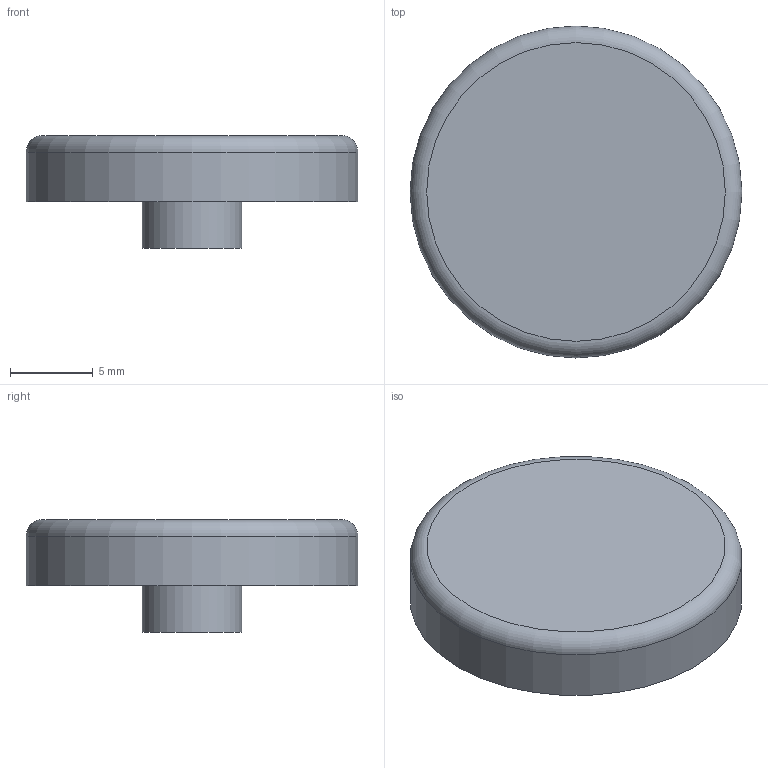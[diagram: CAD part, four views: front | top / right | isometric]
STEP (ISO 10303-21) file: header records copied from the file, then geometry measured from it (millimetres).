
FILE_DESCRIPTION(('Open CASCADE Model'),'2;1');
FILE_NAME('Open CASCADE Shape Model','2026-10-20T14:29:41',('Author'),( 'Open CASCADE'),'Open CASCADE STEP processor 7.8','Open CASCADE 7.8' ,'Unknown');
FILE_SCHEMA(('AUTOMOTIVE_DESIGN { 1 0 10303 214 1 1 1 1 }'));
Length unit declared in the file: millimetre
Products named in the file (1): Open CASCADE STEP translator 7.8 1
Bounding box: 20 x 20 x 6.8 mm (x, y, z)
Volume: 1305.8 mm3; surface area: 942.3 mm2
Topology: 1 solids, 1 shells, 8 faces, 11 edges, 7 vertices
Faces by surface type: plane 4, cylinder 3, torus 1
Full cylindrical faces by diameter (mm): 1.8 x1, 6 x1, 20 x1
Entity records: 332 total; most frequent: CARTESIAN_POINT 63, DIRECTION 55, ORIENTED_EDGE 22, PCURVE 22, DEFINITIONAL_REPRESENTATION 22, AXIS2_PLACEMENT_3D 17, LINE 17, VECTOR 17
